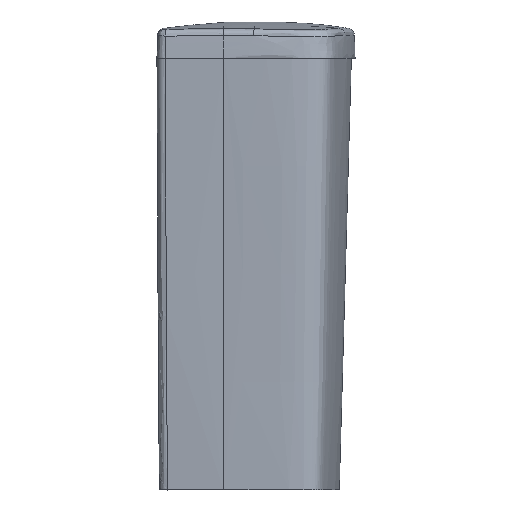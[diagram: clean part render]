
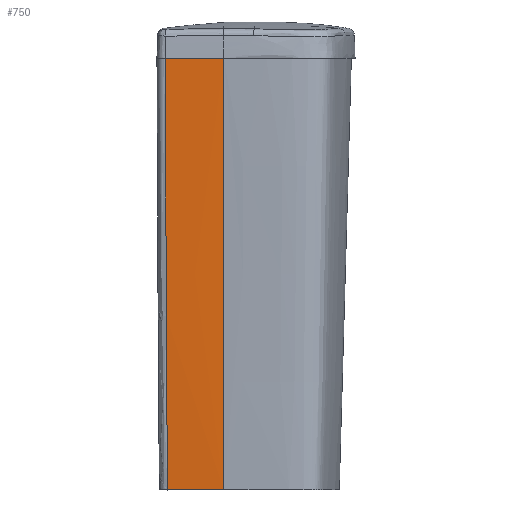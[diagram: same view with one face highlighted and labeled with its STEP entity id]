
A CAD part, left-side view. The second image highlights one B-rep face of the part: STEP entity #750.
In plain terms, the highlighted free-form (B-spline) face has degree [3, 3] with [5, 5] control points.
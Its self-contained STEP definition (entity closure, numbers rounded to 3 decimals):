
#83=FACE_OUTER_BOUND('',#128,.T.);
#128=EDGE_LOOP('',(#604,#605,#606,#607));
#227=B_SPLINE_CURVE_WITH_KNOTS('',3,(#6782,#6783,#6784,#6785,#6786,#6787,
#6788,#6789,#6790,#6791,#6792,#6793,#6794,#6795,#6796,#6797,#6798,#6799,
#6800,#6801,#6802,#6803,#6804,#6805,#6806,#6807),.UNSPECIFIED.,.F.,.F.,
(4,2,2,2,2,2,2,2,2,2,2,2,4),(-4.832,-4.457,-2.416,
-1.209,-0.918,-0.471,-0.247,
-0.189,-0.099,-0.054,-0.025,
-0.014,0.),.UNSPECIFIED.);
#229=B_SPLINE_CURVE_WITH_KNOTS('',3,(#7070,#7071,#7072,#7073,#7074,#7075),
 .UNSPECIFIED.,.F.,.F.,(4,2,4),(0.,0.582,1.),
 .UNSPECIFIED.);
#231=B_SPLINE_CURVE_WITH_KNOTS('',3,(#7131,#7132,#7133,#7134,#7135),
 .UNSPECIFIED.,.F.,.F.,(4,1,4),(0.,0.5,1.),
 .UNSPECIFIED.);
#232=B_SPLINE_CURVE_WITH_KNOTS('',3,(#7136,#7137,#7138,#7139,#7140),
 .UNSPECIFIED.,.F.,.F.,(4,1,4),(0.,0.5,1.),.UNSPECIFIED.);
#295=VERTEX_POINT('',#6714);
#297=VERTEX_POINT('',#6772);
#299=VERTEX_POINT('',#7069);
#300=VERTEX_POINT('',#7130);
#398=EDGE_CURVE('',#295,#297,#227,.T.);
#402=EDGE_CURVE('',#299,#295,#229,.T.);
#404=EDGE_CURVE('',#300,#297,#231,.T.);
#405=EDGE_CURVE('',#300,#299,#232,.T.);
#604=ORIENTED_EDGE('',*,*,#404,.F.);
#605=ORIENTED_EDGE('',*,*,#405,.T.);
#606=ORIENTED_EDGE('',*,*,#402,.T.);
#607=ORIENTED_EDGE('',*,*,#398,.T.);
#660=B_SPLINE_SURFACE_WITH_KNOTS('',3,3,((#7105,#7106,#7107,#7108,#7109),
(#7110,#7111,#7112,#7113,#7114),(#7115,#7116,#7117,#7118,#7119),(#7120,
#7121,#7122,#7123,#7124),(#7125,#7126,#7127,#7128,#7129)),.UNSPECIFIED.,
 .F.,.F.,.F.,(4,1,4),(4,1,4),(0.,0.5,1.),
(0.,0.5,1.),.UNSPECIFIED.);
#750=ADVANCED_FACE('',(#83),#660,.T.);
#6714=CARTESIAN_POINT('',(-179.921,-54.96,355.));
#6772=CARTESIAN_POINT('',(-178.253,-6.672,355.));
#6782=CARTESIAN_POINT('Ctrl Pts',(-179.921,-54.959,355.));
#6783=CARTESIAN_POINT('Ctrl Pts',(-179.871,-53.71,355.));
#6784=CARTESIAN_POINT('Ctrl Pts',(-179.824,-52.461,355.));
#6785=CARTESIAN_POINT('Ctrl Pts',(-179.536,-44.414,355.));
#6786=CARTESIAN_POINT('Ctrl Pts',(-179.364,-37.613,355.));
#6787=CARTESIAN_POINT('Ctrl Pts',(-179.039,-26.793,355.));
#6788=CARTESIAN_POINT('Ctrl Pts',(-178.907,-22.774,355.));
#6789=CARTESIAN_POINT('Ctrl Pts',(-178.722,-17.783,355.));
#6790=CARTESIAN_POINT('Ctrl Pts',(-178.685,-16.812,355.));
#6791=CARTESIAN_POINT('Ctrl Pts',(-178.589,-14.354,355.));
#6792=CARTESIAN_POINT('Ctrl Pts',(-178.528,-12.868,355.));
#6793=CARTESIAN_POINT('Ctrl Pts',(-178.432,-10.634,355.));
#6794=CARTESIAN_POINT('Ctrl Pts',(-178.4,-9.887,355.));
#6795=CARTESIAN_POINT('Ctrl Pts',(-178.358,-8.946,355.));
#6796=CARTESIAN_POINT('Ctrl Pts',(-178.349,-8.753,355.));
#6797=CARTESIAN_POINT('Ctrl Pts',(-178.327,-8.26,355.));
#6798=CARTESIAN_POINT('Ctrl Pts',(-178.313,-7.961,355.));
#6799=CARTESIAN_POINT('Ctrl Pts',(-178.292,-7.51,355.));
#6800=CARTESIAN_POINT('Ctrl Pts',(-178.285,-7.358,355.));
#6801=CARTESIAN_POINT('Ctrl Pts',(-178.274,-7.112,355.));
#6802=CARTESIAN_POINT('Ctrl Pts',(-178.269,-7.016,355.));
#6803=CARTESIAN_POINT('Ctrl Pts',(-178.263,-6.884,355.));
#6804=CARTESIAN_POINT('Ctrl Pts',(-178.262,-6.847,355.));
#6805=CARTESIAN_POINT('Ctrl Pts',(-178.258,-6.765,355.));
#6806=CARTESIAN_POINT('Ctrl Pts',(-178.256,-6.719,355.));
#6807=CARTESIAN_POINT('Ctrl Pts',(-178.253,-6.673,355.));
#7069=CARTESIAN_POINT('',(-168.,-54.958,0.));
#7070=CARTESIAN_POINT('Ctrl Pts',(-168.,-54.958,0.));
#7071=CARTESIAN_POINT('Ctrl Pts',(-170.404,-54.958,68.865));
#7072=CARTESIAN_POINT('Ctrl Pts',(-172.989,-54.959,137.725));
#7073=CARTESIAN_POINT('Ctrl Pts',(-177.039,-54.959,256.056));
#7074=CARTESIAN_POINT('Ctrl Pts',(-178.614,-54.959,305.524));
#7075=CARTESIAN_POINT('Ctrl Pts',(-179.921,-54.96,355.));
#7105=CARTESIAN_POINT('Ctrl Pts',(-178.253,-6.673,355.));
#7106=CARTESIAN_POINT('Ctrl Pts',(-178.631,-14.717,355.));
#7107=CARTESIAN_POINT('Ctrl Pts',(-179.205,-30.812,355.));
#7108=CARTESIAN_POINT('Ctrl Pts',(-179.599,-46.913,355.));
#7109=CARTESIAN_POINT('Ctrl Pts',(-179.921,-54.96,355.));
#7110=CARTESIAN_POINT('Ctrl Pts',(-176.698,-7.004,295.815));
#7111=CARTESIAN_POINT('Ctrl Pts',(-177.062,-14.993,295.816));
#7112=CARTESIAN_POINT('Ctrl Pts',(-177.653,-30.977,295.818));
#7113=CARTESIAN_POINT('Ctrl Pts',(-178.06,-46.967,295.82));
#7114=CARTESIAN_POINT('Ctrl Pts',(-178.358,-54.959,295.82));
#7115=CARTESIAN_POINT('Ctrl Pts',(-173.894,-7.563,177.437));
#7116=CARTESIAN_POINT('Ctrl Pts',(-174.051,-15.46,177.445));
#7117=CARTESIAN_POINT('Ctrl Pts',(-174.319,-31.255,177.461));
#7118=CARTESIAN_POINT('Ctrl Pts',(-174.392,-47.058,177.477));
#7119=CARTESIAN_POINT('Ctrl Pts',(-174.463,-54.959,177.485));
#7120=CARTESIAN_POINT('Ctrl Pts',(-169.233,-8.174,59.108));
#7121=CARTESIAN_POINT('Ctrl Pts',(-169.408,-15.97,59.117));
#7122=CARTESIAN_POINT('Ctrl Pts',(-169.805,-31.559,59.136));
#7123=CARTESIAN_POINT('Ctrl Pts',(-169.995,-47.158,59.155));
#7124=CARTESIAN_POINT('Ctrl Pts',(-170.066,-54.958,59.164));
#7125=CARTESIAN_POINT('Ctrl Pts',(-165.832,-8.52,0.));
#7126=CARTESIAN_POINT('Ctrl Pts',(-166.217,-16.259,0.));
#7127=CARTESIAN_POINT('Ctrl Pts',(-167.079,-31.731,0.));
#7128=CARTESIAN_POINT('Ctrl Pts',(-167.729,-47.214,0.));
#7129=CARTESIAN_POINT('Ctrl Pts',(-168.,-54.958,0.));
#7130=CARTESIAN_POINT('',(-165.832,-8.52,0.));
#7131=CARTESIAN_POINT('Ctrl Pts',(-165.832,-8.52,0.));
#7132=CARTESIAN_POINT('Ctrl Pts',(-169.233,-8.174,59.108));
#7133=CARTESIAN_POINT('Ctrl Pts',(-173.894,-7.563,177.437));
#7134=CARTESIAN_POINT('Ctrl Pts',(-176.698,-7.004,295.815));
#7135=CARTESIAN_POINT('Ctrl Pts',(-178.253,-6.673,355.));
#7136=CARTESIAN_POINT('Ctrl Pts',(-165.832,-8.52,0.));
#7137=CARTESIAN_POINT('Ctrl Pts',(-166.217,-16.259,0.));
#7138=CARTESIAN_POINT('Ctrl Pts',(-167.079,-31.731,0.));
#7139=CARTESIAN_POINT('Ctrl Pts',(-167.729,-47.214,0.));
#7140=CARTESIAN_POINT('Ctrl Pts',(-168.,-54.958,0.));
